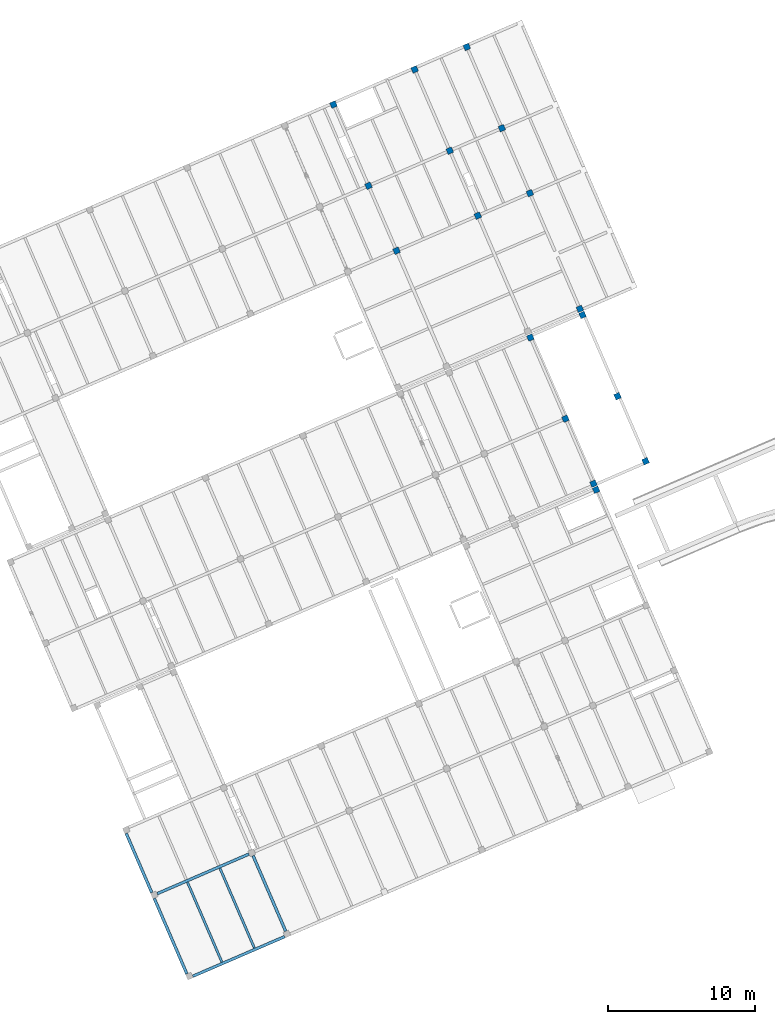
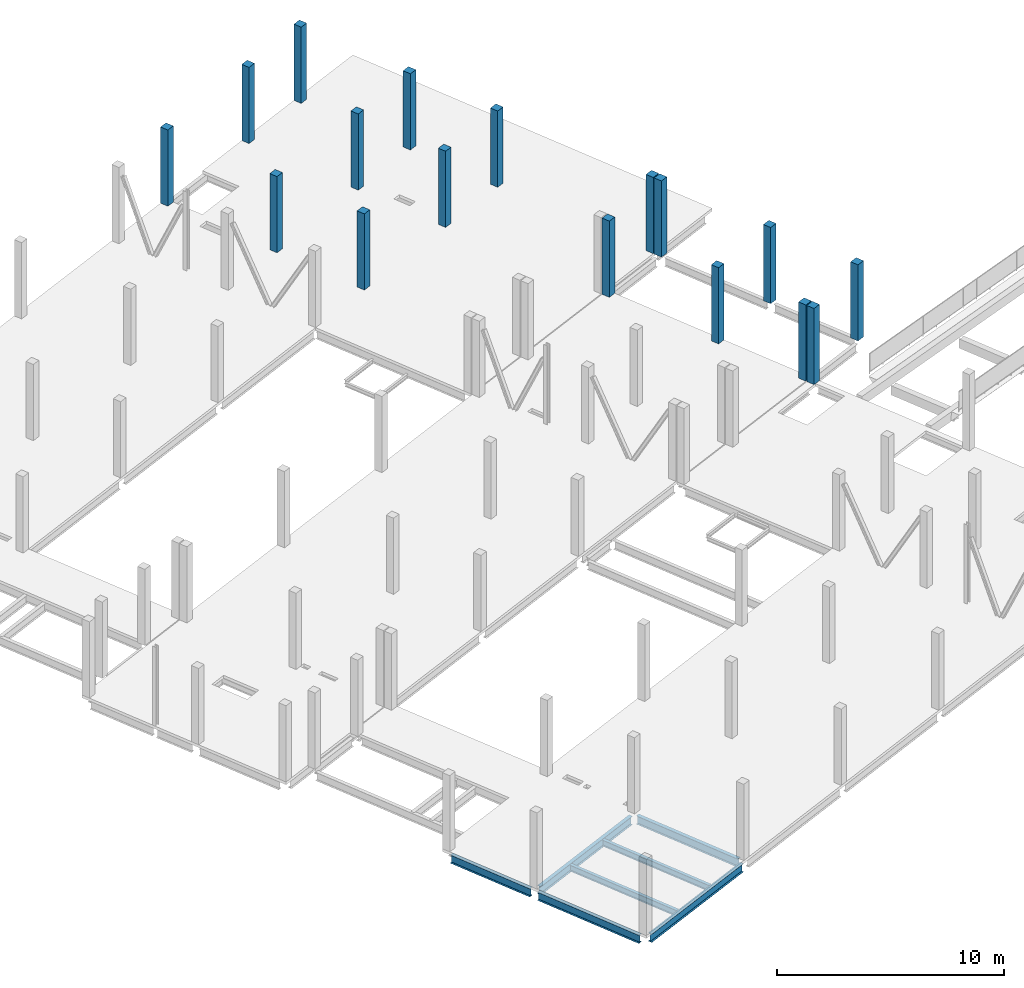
# One storey, part 6 of 24: 17 columns, 7 beams.
"""IFC4 building model written with IfcOpenShell, lengths in metres."""

from ifc_helpers import new_model, entity, si_unit, converted_unit, derived_unit, direction, frame, origin, place, context, subcontext, project, spatial, line, arc, indexed_curve, outline, extrude, source, transform, mapped, material, type_object, type_shapes, element, save


model = new_model("IFC4")

# Units and contexts
model_context = context("Model", 3, precision=1e-05, world=origin(), true_north=direction((6.12323399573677e-17, 1.0)))
body_context = subcontext(model_context, "Body", "Model", "MODEL_VIEW")
ifc_project = project(units=[si_unit("LENGTHUNIT", "METRE"), si_unit("AREAUNIT", "SQUARE_METRE"), si_unit("VOLUMEUNIT", "CUBIC_METRE"), converted_unit("PLANEANGLEUNIT", "DEGREE", entity("IfcPlaneAngleMeasure", 0.0174532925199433), si_unit("PLANEANGLEUNIT", "RADIAN"), dimensions=[0, 0, 0, 0, 0, 0, 0]), si_unit("MASSUNIT", "GRAM", prefix="KILO"), derived_unit("MOMENTOFINERTIAUNIT", [(si_unit("LENGTHUNIT", "METRE"), 4)]), derived_unit("LINEARFORCEUNIT", [(si_unit("MASSUNIT", "GRAM", prefix="KILO"), 1), (si_unit("TIMEUNIT", "SECOND"), -2)]), derived_unit("WARPINGCONSTANTUNIT", [(si_unit("LENGTHUNIT", "METRE"), 6)]), derived_unit("THERMALTRANSMITTANCEUNIT", [(si_unit("MASSUNIT", "GRAM", prefix="KILO"), 1), (si_unit("THERMODYNAMICTEMPERATUREUNIT", "KELVIN"), -1), (si_unit("TIMEUNIT", "SECOND"), -3)]), derived_unit("USERDEFINED", [(si_unit("MASSUNIT", "GRAM", prefix="KILO"), 1), (si_unit("TIMEUNIT", "SECOND"), -2), (si_unit("THERMODYNAMICTEMPERATUREUNIT", "KELVIN"), -1)]), derived_unit("THERMALRESISTANCEUNIT", [(si_unit("MASSUNIT", "GRAM", prefix="KILO"), -1), (si_unit("TIMEUNIT", "SECOND"), 3), (si_unit("THERMODYNAMICTEMPERATUREUNIT", "KELVIN"), 1)])], contexts=[model_context])

# Site, building, storey
site_placement = place(None, origin())
site = spatial("IfcSite", under=ifc_project, at=site_placement, Name="Default", CompositionType="ELEMENT")
building_placement = place(site_placement, frame((12.6613425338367, -82.5732315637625, 317.15), z_axis=(0.0, 0.0, 1.0), x_axis=(-0.396377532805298, 0.918087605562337, 0.0)))
building = spatial("IfcBuilding", under=site, at=building_placement, Name="CESFAM Coyhaique", CompositionType="ELEMENT")
storey_placement = place(building_placement, frame((0.0, 0.0, 4.20000000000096)))
storey = spatial("IfcBuildingStorey", under=building, at=storey_placement, Name="Nivel 2", CompositionType="ELEMENT", Elevation=4.20000000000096)

# Columns
ifc_material_1 = material(Name="HA")
column_type_1 = type_object("IfcColumnType", Name="M_Concrete-Square-Column:400 x 400mm", PredefinedType="COLUMN", material=ifc_material_1)
shared_shape_1 = source(origin(), body_context, "Body", "SweptSolid", [
    extrude(outline(indexed_curve([(-0.199999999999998, -0.200000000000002), (0.200000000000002, -0.200000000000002), (0.200000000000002, 0.199999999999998), (-0.199999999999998, 0.199999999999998), (-0.199999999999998, -0.200000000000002)], self_intersect=False)), frame((23.9688534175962, -21.197149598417, 4.20000000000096), z_axis=(0.0, 0.0, 1.0), x_axis=(-1.0, 0.0, 0.0)), (0.0, 0.0, 1.0), 4.10000000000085),
])
type_shapes(column_type_1, [shared_shape_1])
column_1_placement = place(storey_placement, frame((0.0, 0.0, -4.20000000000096)))
element("IfcColumn", 1, at=column_1_placement, inside=storey, type_object=column_type_1, Name="M_Concrete-Square-Column:400 x 400mm", ObjectType="M_Concrete-Square-Column:400 x 400mm", PredefinedType="COLUMN", context=body_context, shape_type="MappedRepresentation", body=[
    mapped(shared_shape_1, transform((0.0, 0.0, 0.0), scale=1.0)),
])
column_type_2 = type_object("IfcColumnType", Name="M_Concrete-Square-Column:400 x 400mm", PredefinedType="COLUMN", material=ifc_material_1)
shared_shape_2 = source(origin(), body_context, "Body", "SweptSolid", [
    extrude(outline(indexed_curve([(-0.200000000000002, -0.200000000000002), (0.199999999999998, -0.200000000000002), (0.199999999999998, 0.199999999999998), (-0.200000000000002, 0.199999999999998), (-0.200000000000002, -0.200000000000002)], self_intersect=False)), frame((28.7688534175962, -21.197149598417, 4.20000000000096), z_axis=(0.0, 0.0, 1.0), x_axis=(-1.0, 0.0, 0.0)), (0.0, 0.0, 1.0), 4.10000000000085),
])
type_shapes(column_type_2, [shared_shape_2])
column_2_placement = place(storey_placement, frame((0.0, 0.0, -4.20000000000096)))
element("IfcColumn", 2, at=column_2_placement, inside=storey, type_object=column_type_2, Name="M_Concrete-Square-Column:400 x 400mm", ObjectType="M_Concrete-Square-Column:400 x 400mm", PredefinedType="COLUMN", context=body_context, shape_type="MappedRepresentation", body=[
    mapped(shared_shape_2, transform((0.0, 0.0, 0.0), scale=1.0)),
])
column_type_3 = type_object("IfcColumnType", Name="M_Concrete-Square-Column:400 x 400mm", PredefinedType="COLUMN", material=ifc_material_1)
shared_shape_3 = source(origin(), body_context, "Body", "SweptSolid", [
    extrude(outline(indexed_curve([(-0.199999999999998, -0.200000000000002), (0.200000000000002, -0.200000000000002), (0.200000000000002, 0.199999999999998), (-0.199999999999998, 0.199999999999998), (-0.199999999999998, -0.200000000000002)], self_intersect=False)), frame((34.7688534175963, -21.197149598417, 4.20000000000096), z_axis=(0.0, 0.0, 1.0), x_axis=(-1.0, 0.0, 0.0)), (0.0, 0.0, 1.0), 4.10000000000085),
])
type_shapes(column_type_3, [shared_shape_3])
column_3_placement = place(storey_placement, frame((0.0, 0.0, -4.20000000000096)))
element("IfcColumn", 3, at=column_3_placement, inside=storey, type_object=column_type_3, Name="M_Concrete-Square-Column:400 x 400mm", ObjectType="M_Concrete-Square-Column:400 x 400mm", PredefinedType="COLUMN", context=body_context, shape_type="MappedRepresentation", body=[
    mapped(shared_shape_3, transform((0.0, 0.0, 0.0), scale=1.0)),
])
column_type_4 = type_object("IfcColumnType", Name="M_Concrete-Square-Column:400 x 400mm", PredefinedType="COLUMN", material=ifc_material_1)
shared_shape_4 = source(origin(), body_context, "Body", "SweptSolid", [
    extrude(outline(indexed_curve([(-0.199999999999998, -0.200000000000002), (0.199999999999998, -0.200000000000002), (0.199999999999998, 0.199999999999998), (-0.199999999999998, 0.199999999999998), (-0.199999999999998, -0.200000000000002)], self_intersect=False)), frame((43.7688534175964, -21.197149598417, 4.20000000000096), z_axis=(0.0, 0.0, 1.0), x_axis=(-1.0, 0.0, 0.0)), (0.0, 0.0, 1.0), 4.10000000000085),
])
type_shapes(column_type_4, [shared_shape_4])
column_4_placement = place(storey_placement, frame((0.0, 0.0, -4.20000000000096)))
element("IfcColumn", 4, at=column_4_placement, inside=storey, type_object=column_type_4, Name="M_Concrete-Square-Column:400 x 400mm", ObjectType="M_Concrete-Square-Column:400 x 400mm", PredefinedType="COLUMN", context=body_context, shape_type="MappedRepresentation", body=[
    mapped(shared_shape_4, transform((0.0, 0.0, 0.0), scale=1.0)),
])
column_type_5 = type_object("IfcColumnType", Name="M_Concrete-Square-Column:400 x 400mm", PredefinedType="COLUMN", material=ifc_material_1)
shared_shape_5 = source(origin(), body_context, "Body", "SweptSolid", [
    extrude(outline(indexed_curve([(-0.199999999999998, -0.200000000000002), (0.199999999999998, -0.200000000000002), (0.199999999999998, 0.199999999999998), (-0.199999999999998, 0.199999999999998), (-0.199999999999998, -0.200000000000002)], self_intersect=False)), frame((48.5688534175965, -21.1971495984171, 4.20000000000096), z_axis=(0.0, 0.0, 1.0), x_axis=(-1.0, 0.0, 0.0)), (0.0, 0.0, 1.0), 4.10000000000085),
])
type_shapes(column_type_5, [shared_shape_5])
column_5_placement = place(storey_placement, frame((0.0, 0.0, -4.20000000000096)))
element("IfcColumn", 5, at=column_5_placement, inside=storey, type_object=column_type_5, Name="M_Concrete-Square-Column:400 x 400mm", ObjectType="M_Concrete-Square-Column:400 x 400mm", PredefinedType="COLUMN", context=body_context, shape_type="MappedRepresentation", body=[
    mapped(shared_shape_5, transform((0.0, 0.0, 0.0), scale=1.0)),
])
column_type_6 = type_object("IfcColumnType", Name="M_Concrete-Square-Column:400 x 400mm", PredefinedType="COLUMN", material=ifc_material_1)
shared_shape_6 = source(origin(), body_context, "Body", "SweptSolid", [
    extrude(outline(indexed_curve([(-0.199999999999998, -0.200000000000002), (0.199999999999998, -0.200000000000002), (0.199999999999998, 0.199999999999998), (-0.199999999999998, 0.199999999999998), (-0.199999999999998, -0.200000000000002)], self_intersect=False)), frame((54.5688534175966, -21.1971495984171, 4.20000000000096), z_axis=(0.0, 0.0, 1.0), x_axis=(-1.0, 0.0, 0.0)), (0.0, 0.0, 1.0), 4.10000000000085),
])
type_shapes(column_type_6, [shared_shape_6])
column_6_placement = place(storey_placement, frame((0.0, 0.0, -4.20000000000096)))
element("IfcColumn", 6, at=column_6_placement, inside=storey, type_object=column_type_6, Name="M_Concrete-Square-Column:400 x 400mm", ObjectType="M_Concrete-Square-Column:400 x 400mm", PredefinedType="COLUMN", context=body_context, shape_type="MappedRepresentation", body=[
    mapped(shared_shape_6, transform((0.0, 0.0, 0.0), scale=1.0)),
])
column_type_7 = type_object("IfcColumnType", Name="M_Concrete-Square-Column:400 x 400mm", PredefinedType="COLUMN", material=ifc_material_1)
shared_shape_7 = source(origin(), body_context, "Body", "SweptSolid", [
    extrude(outline(indexed_curve([(-0.199999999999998, -0.2), (0.199999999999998, -0.2), (0.199999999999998, 0.2), (-0.199999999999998, 0.2), (-0.199999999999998, -0.2)], self_intersect=False)), frame((43.7688534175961, -15.1971495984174, 4.20000000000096), z_axis=(0.0, 0.0, 1.0), x_axis=(-1.0, 0.0, 0.0)), (0.0, 0.0, 1.0), 4.10000000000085),
])
type_shapes(column_type_7, [shared_shape_7])
column_7_placement = place(storey_placement, frame((0.0, 0.0, -4.20000000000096)))
element("IfcColumn", 7, at=column_7_placement, inside=storey, type_object=column_type_7, Name="M_Concrete-Square-Column:400 x 400mm", ObjectType="M_Concrete-Square-Column:400 x 400mm", PredefinedType="COLUMN", context=body_context, shape_type="MappedRepresentation", body=[
    mapped(shared_shape_7, transform((0.0, 0.0, 0.0), scale=1.0)),
])
column_type_8 = type_object("IfcColumnType", Name="M_Concrete-Square-Column:400 x 400mm", PredefinedType="COLUMN", material=ifc_material_1)
shared_shape_8 = source(origin(), body_context, "Body", "SweptSolid", [
    extrude(outline(indexed_curve([(-0.199999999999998, -0.2), (0.199999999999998, -0.2), (0.199999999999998, 0.2), (-0.199999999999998, 0.2), (-0.199999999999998, -0.2)], self_intersect=False)), frame((48.5688534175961, -15.1971495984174, 4.20000000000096), z_axis=(0.0, 0.0, 1.0), x_axis=(-1.0, 0.0, 0.0)), (0.0, 0.0, 1.0), 4.10000000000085),
])
type_shapes(column_type_8, [shared_shape_8])
column_8_placement = place(storey_placement, frame((0.0, 0.0, -4.20000000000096)))
element("IfcColumn", 8, at=column_8_placement, inside=storey, type_object=column_type_8, Name="M_Concrete-Square-Column:400 x 400mm", ObjectType="M_Concrete-Square-Column:400 x 400mm", PredefinedType="COLUMN", context=body_context, shape_type="MappedRepresentation", body=[
    mapped(shared_shape_8, transform((0.0, 0.0, 0.0), scale=1.0)),
])
column_type_9 = type_object("IfcColumnType", Name="M_Concrete-Square-Column:400 x 400mm", PredefinedType="COLUMN", material=ifc_material_1)
shared_shape_9 = source(origin(), body_context, "Body", "SweptSolid", [
    extrude(outline(indexed_curve([(-0.199999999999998, -0.2), (0.199999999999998, -0.2), (0.199999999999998, 0.2), (-0.199999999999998, 0.2), (-0.199999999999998, -0.2)], self_intersect=False)), frame((54.5688534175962, -15.1971495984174, 4.20000000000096), z_axis=(0.0, 0.0, 1.0), x_axis=(-1.0, 0.0, 0.0)), (0.0, 0.0, 1.0), 4.10000000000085),
])
type_shapes(column_type_9, [shared_shape_9])
column_9_placement = place(storey_placement, frame((0.0, 0.0, -4.20000000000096)))
element("IfcColumn", 9, at=column_9_placement, inside=storey, type_object=column_type_9, Name="M_Concrete-Square-Column:400 x 400mm", ObjectType="M_Concrete-Square-Column:400 x 400mm", PredefinedType="COLUMN", context=body_context, shape_type="MappedRepresentation", body=[
    mapped(shared_shape_9, transform((0.0, 0.0, 0.0), scale=1.0)),
])
column_type_10 = type_object("IfcColumnType", Name="M_Concrete-Square-Column:400 x 400mm", PredefinedType="COLUMN", material=ifc_material_1)
shared_shape_10 = source(origin(), body_context, "Body", "SweptSolid", [
    extrude(outline(indexed_curve([(-0.200000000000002, -0.200000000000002), (0.199999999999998, -0.200000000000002), (0.199999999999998, 0.199999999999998), (-0.200000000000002, 0.199999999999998), (-0.200000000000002, -0.200000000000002)], self_intersect=False)), frame((28.7688534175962, -25.0471495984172, 4.20000000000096), z_axis=(0.0, 0.0, 1.0), x_axis=(-1.0, 0.0, 0.0)), (0.0, 0.0, 1.0), 4.10000000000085),
])
type_shapes(column_type_10, [shared_shape_10])
column_10_placement = place(storey_placement, frame((0.0, 0.0, -4.20000000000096)))
element("IfcColumn", 10, at=column_10_placement, inside=storey, type_object=column_type_10, Name="M_Concrete-Square-Column:400 x 400mm", ObjectType="M_Concrete-Square-Column:400 x 400mm", PredefinedType="COLUMN", context=body_context, shape_type="MappedRepresentation", body=[
    mapped(shared_shape_10, transform((0.0, 0.0, 0.0), scale=1.0)),
])
column_type_11 = type_object("IfcColumnType", Name="M_Concrete-Square-Column:400 x 400mm", PredefinedType="COLUMN", material=ifc_material_1)
shared_shape_11 = source(origin(), body_context, "Body", "SweptSolid", [
    extrude(outline(indexed_curve([(-0.199999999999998, -0.200000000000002), (0.200000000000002, -0.200000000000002), (0.200000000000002, 0.199999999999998), (-0.199999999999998, 0.199999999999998), (-0.199999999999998, -0.200000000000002)], self_intersect=False)), frame((23.9688534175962, -25.0471495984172, 4.20000000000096), z_axis=(0.0, 0.0, 1.0), x_axis=(-1.0, 0.0, 0.0)), (0.0, 0.0, 1.0), 4.10000000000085),
])
type_shapes(column_type_11, [shared_shape_11])
column_11_placement = place(storey_placement, frame((0.0, 0.0, -4.20000000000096)))
element("IfcColumn", 11, at=column_11_placement, inside=storey, type_object=column_type_11, Name="M_Concrete-Square-Column:400 x 400mm", ObjectType="M_Concrete-Square-Column:400 x 400mm", PredefinedType="COLUMN", context=body_context, shape_type="MappedRepresentation", body=[
    mapped(shared_shape_11, transform((0.0, 0.0, 0.0), scale=1.0)),
])
column_type_12 = type_object("IfcColumnType", Name="M_Concrete-Square-Column:400 x 400mm", PredefinedType="COLUMN", material=ifc_material_1)
shared_shape_12 = source(origin(), body_context, "Body", "SweptSolid", [
    extrude(outline(indexed_curve([(-0.200000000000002, -0.199999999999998), (0.199999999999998, -0.199999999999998), (0.199999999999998, 0.200000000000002), (-0.200000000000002, 0.200000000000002), (-0.200000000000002, -0.199999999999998)], self_intersect=False)), frame((34.7688534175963, -25.0471495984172, 4.20000000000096), z_axis=(0.0, 0.0, 1.0), x_axis=(-1.0, 0.0, 0.0)), (0.0, 0.0, 1.0), 4.10000000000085),
])
type_shapes(column_type_12, [shared_shape_12])
column_12_placement = place(storey_placement, frame((0.0, 0.0, -4.20000000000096)))
element("IfcColumn", 12, at=column_12_placement, inside=storey, type_object=column_type_12, Name="M_Concrete-Square-Column:400 x 400mm", ObjectType="M_Concrete-Square-Column:400 x 400mm", PredefinedType="COLUMN", context=body_context, shape_type="MappedRepresentation", body=[
    mapped(shared_shape_12, transform((0.0, 0.0, 0.0), scale=1.0)),
])
column_type_13 = type_object("IfcColumnType", Name="M_Concrete-Square-Column:400 x 400mm", PredefinedType="COLUMN", material=ifc_material_1)
shared_shape_13 = source(origin(), body_context, "Body", "SweptSolid", [
    extrude(outline(indexed_curve([(-0.199999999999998, -0.200000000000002), (0.199999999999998, -0.200000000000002), (0.199999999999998, 0.199999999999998), (-0.199999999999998, 0.199999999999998), (-0.199999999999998, -0.200000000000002)], self_intersect=False)), frame((43.7688534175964, -25.0471495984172, 4.20000000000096), z_axis=(0.0, 0.0, 1.0), x_axis=(-1.0, 0.0, 0.0)), (0.0, 0.0, 1.0), 4.10000000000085),
])
type_shapes(column_type_13, [shared_shape_13])
column_13_placement = place(storey_placement, frame((0.0, 0.0, -4.20000000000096)))
element("IfcColumn", 13, at=column_13_placement, inside=storey, type_object=column_type_13, Name="M_Concrete-Square-Column:400 x 400mm", ObjectType="M_Concrete-Square-Column:400 x 400mm", PredefinedType="COLUMN", context=body_context, shape_type="MappedRepresentation", body=[
    mapped(shared_shape_13, transform((0.0, 0.0, 0.0), scale=1.0)),
])
column_type_14 = type_object("IfcColumnType", Name="M_Concrete-Square-Column:400 x 400mm", PredefinedType="COLUMN", material=ifc_material_1)
shared_shape_14 = source(origin(), body_context, "Body", "SweptSolid", [
    extrude(outline(indexed_curve([(-0.199999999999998, -0.200000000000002), (0.199999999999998, -0.200000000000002), (0.199999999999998, 0.199999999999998), (-0.199999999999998, 0.199999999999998), (-0.199999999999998, -0.200000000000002)], self_intersect=False)), frame((48.5688534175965, -25.0471495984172, 4.20000000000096), z_axis=(0.0, 0.0, 1.0), x_axis=(-1.0, 0.0, 0.0)), (0.0, 0.0, 1.0), 4.10000000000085),
])
type_shapes(column_type_14, [shared_shape_14])
column_14_placement = place(storey_placement, frame((0.0, 0.0, -4.20000000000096)))
element("IfcColumn", 14, at=column_14_placement, inside=storey, type_object=column_type_14, Name="M_Concrete-Square-Column:400 x 400mm", ObjectType="M_Concrete-Square-Column:400 x 400mm", PredefinedType="COLUMN", context=body_context, shape_type="MappedRepresentation", body=[
    mapped(shared_shape_14, transform((0.0, 0.0, 0.0), scale=1.0)),
])
column_type_15 = type_object("IfcColumnType", Name="M_Concrete-Square-Column:400 x 400mm", PredefinedType="COLUMN", material=ifc_material_1)
shared_shape_15 = source(origin(), body_context, "Body", "SweptSolid", [
    extrude(outline(indexed_curve([(-0.199999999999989, -0.200000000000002), (0.200000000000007, -0.200000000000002), (0.200000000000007, 0.199999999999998), (-0.199999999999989, 0.199999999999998), (-0.199999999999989, -0.200000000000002)], self_intersect=False)), frame((54.5688534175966, -25.0471495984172, 4.20000000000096), z_axis=(0.0, 0.0, 1.0), x_axis=(-1.0, 0.0, 0.0)), (0.0, 0.0, 1.0), 4.10000000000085),
])
type_shapes(column_type_15, [shared_shape_15])
column_15_placement = place(storey_placement, frame((0.0, 0.0, -4.20000000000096)))
element("IfcColumn", 15, at=column_15_placement, inside=storey, type_object=column_type_15, Name="M_Concrete-Square-Column:400 x 400mm", ObjectType="M_Concrete-Square-Column:400 x 400mm", PredefinedType="COLUMN", context=body_context, shape_type="MappedRepresentation", body=[
    mapped(shared_shape_15, transform((0.0, 0.0, 0.0), scale=1.0)),
])
column_type_16 = type_object("IfcColumnType", Name="M_Concrete-Square-Column:400 x 400mm", PredefinedType="COLUMN", material=ifc_material_1)
shared_shape_16 = source(origin(), body_context, "Body", "SweptSolid", [
    extrude(outline(indexed_curve([(-0.240000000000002, -0.181000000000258), (0.159999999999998, -0.181000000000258), (0.159999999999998, -0.0759999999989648), (0.159999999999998, 0.218999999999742), (-0.240000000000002, 0.218999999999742), (-0.240000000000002, -0.181000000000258)], self_intersect=False)), frame((23.4788534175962, -21.1781495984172, 4.20000000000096), z_axis=(0.0, 0.0, 1.0), x_axis=(-1.0, 0.0, 0.0)), (0.0, 0.0, 1.0), 4.10000000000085),
])
type_shapes(column_type_16, [shared_shape_16])
column_16_placement = place(storey_placement, frame((0.0, 0.0, -4.20000000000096)))
element("IfcColumn", 16, at=column_16_placement, inside=storey, type_object=column_type_16, Name="M_Concrete-Square-Column:400 x 400mm", ObjectType="M_Concrete-Square-Column:400 x 400mm", PredefinedType="COLUMN", context=body_context, shape_type="MappedRepresentation", body=[
    mapped(shared_shape_16, transform((0.0, 0.0, 0.0), scale=1.0)),
])
column_type_17 = type_object("IfcColumnType", Name="M_Concrete-Square-Column:400 x 400mm", PredefinedType="COLUMN", material=ifc_material_1)
shared_shape_17 = source(origin(), body_context, "Body", "SweptSolid", [
    extrude(outline(indexed_curve([(-0.199999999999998, -0.200000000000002), (0.200000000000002, -0.200000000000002), (0.200000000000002, 0.199999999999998), (-0.199999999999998, 0.199999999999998), (-0.199999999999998, -0.200000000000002)], self_intersect=False)), frame((35.2188534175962, -25.0471495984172, 4.20000000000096), z_axis=(0.0, 0.0, 1.0), x_axis=(-1.0, 0.0, 0.0)), (0.0, 0.0, 1.0), 4.10000000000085),
])
type_shapes(column_type_17, [shared_shape_17])
column_17_placement = place(storey_placement, frame((0.0, 0.0, -4.20000000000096)))
element("IfcColumn", 17, at=column_17_placement, inside=storey, type_object=column_type_17, Name="M_Concrete-Square-Column:400 x 400mm", ObjectType="M_Concrete-Square-Column:400 x 400mm", PredefinedType="COLUMN", context=body_context, shape_type="MappedRepresentation", body=[
    mapped(shared_shape_17, transform((0.0, 0.0, 0.0), scale=1.0)),
])

# Beams
ifc_material_2 = material(Name="Steel, 45-345", Category="Metal")
beam_type_1 = type_object("IfcBeamType", Name="M_W Shapes:W450X190mm", PredefinedType="BEAM", material=ifc_material_2)
shared_shape_18 = source(origin(), body_context, "Body", "SweptSolid", [
    extrude(outline(indexed_curve([(-0.225, -0.0950000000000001), (-0.215350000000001, -0.0950000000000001), (-0.21535, -0.0105699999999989), (-0.213109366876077, -0.00516063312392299), (-0.2077, -0.00291999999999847), (0.207699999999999, -0.00291999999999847), (0.213109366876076, -0.00516063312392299), (0.215349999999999, -0.0105699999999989), (0.215349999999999, -0.0950000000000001), (0.225, -0.0950000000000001), (0.225, 0.0950000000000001), (0.215349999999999, 0.0950000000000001), (0.215349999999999, 0.0105700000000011), (0.213109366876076, 0.00516063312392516), (0.207699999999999, 0.00292000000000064), (-0.2077, 0.00292000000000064), (-0.213109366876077, 0.00516063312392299), (-0.215350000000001, 0.0105700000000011), (-0.215350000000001, 0.0950000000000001), (-0.225, 0.0950000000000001)], segments=[line(1, 2, 3), arc(3, 4, 5), line(5, 6), arc(6, 7, 8), line(8, 9, 10, 11, 12, 13), arc(13, 14, 15), line(15, 16), arc(16, 17, 18), line(18, 19, 20, 1)], self_intersect=False)), frame((4.38155341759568, 17.3028504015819, 3.82500000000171), z_axis=(1.0, 0.0, 0.0), x_axis=(0.0, 0.0, -1.0)), (0.0, 0.0, 1.0), 5.5746),
])
type_shapes(beam_type_1, [shared_shape_18])
beam_1_placement = place(storey_placement, frame((0.0, 0.0, -4.20000000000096)))
element("IfcBeam", 18, at=beam_1_placement, inside=storey, type_object=beam_type_1, Name="M_W Shapes:W450X190mm", ObjectType="M_W Shapes:W450X190mm", PredefinedType="BEAM", context=body_context, shape_type="MappedRepresentation", body=[
    mapped(shared_shape_18, transform((0.0, 0.0, 0.0), scale=1.0)),
])
beam_type_2 = type_object("IfcBeamType", Name="M_W Shapes:W450X190mm", PredefinedType="BEAM", material=ifc_material_2)
shared_shape_19 = source(origin(), body_context, "Body", "SweptSolid", [
    extrude(outline(indexed_curve([(-0.225, -0.0950000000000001), (-0.215350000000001, -0.0950000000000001), (-0.21535, -0.0105699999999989), (-0.213109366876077, -0.00516063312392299), (-0.2077, -0.00291999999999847), (0.207699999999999, -0.00291999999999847), (0.213109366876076, -0.00516063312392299), (0.215349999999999, -0.0105699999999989), (0.215349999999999, -0.0950000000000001), (0.225, -0.0950000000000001), (0.225, 0.0950000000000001), (0.215349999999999, 0.0950000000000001), (0.215349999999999, 0.0105700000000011), (0.213109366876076, 0.00516063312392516), (0.207699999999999, 0.00292000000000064), (-0.2077, 0.00292000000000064), (-0.213109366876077, 0.00516063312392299), (-0.215350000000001, 0.0105700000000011), (-0.215350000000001, 0.0950000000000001), (-0.225, 0.0950000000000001)], segments=[line(1, 2, 3), arc(3, 4, 5), line(5, 6), arc(6, 7, 8), line(8, 9, 10, 11, 12, 13), arc(13, 14, 15), line(15, 16), arc(16, 17, 18), line(18, 19, 20, 1)], self_intersect=False)), frame((4.3815534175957, 10.0028504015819, 3.82500000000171), z_axis=(1.0, 0.0, 0.0), x_axis=(0.0, 0.0, -1.0)), (0.0, 0.0, 1.0), 5.5746),
])
type_shapes(beam_type_2, [shared_shape_19])
beam_2_placement = place(storey_placement, frame((0.0, 0.0, -4.20000000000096)))
element("IfcBeam", 19, at=beam_2_placement, inside=storey, type_object=beam_type_2, Name="M_W Shapes:W450X190mm", ObjectType="M_W Shapes:W450X190mm", PredefinedType="BEAM", context=body_context, shape_type="MappedRepresentation", body=[
    mapped(shared_shape_19, transform((0.0, 0.0, 0.0), scale=1.0)),
])
beam_type_3 = type_object("IfcBeamType", Name="M_W Shapes:W450X190mm", PredefinedType="BEAM", material=ifc_material_2)
shared_shape_20 = source(origin(), body_context, "Body", "SweptSolid", [
    extrude(outline(indexed_curve([(-0.225, -0.0950000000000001), (-0.215350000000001, -0.0949999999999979), (-0.21535, -0.0105699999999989), (-0.213109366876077, -0.00516063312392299), (-0.2077, -0.00291999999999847), (0.207699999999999, -0.00291999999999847), (0.213109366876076, -0.00516063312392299), (0.215349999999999, -0.0105699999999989), (0.215349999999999, -0.0950000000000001), (0.225, -0.0950000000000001), (0.225, 0.0950000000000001), (0.215349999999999, 0.0950000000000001), (0.215349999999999, 0.0105700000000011), (0.213109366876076, 0.00516063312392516), (0.207699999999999, 0.00292000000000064), (-0.2077, 0.00292000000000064), (-0.213109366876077, 0.00516063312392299), (-0.215350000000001, 0.0105700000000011), (-0.215350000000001, 0.0950000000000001), (-0.225, 0.0950000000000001)], segments=[line(1, 2, 3), arc(3, 4, 5), line(5, 6), arc(6, 7, 8), line(8, 9, 10, 11, 12, 13), arc(13, 14, 15), line(15, 16), arc(16, 17, 18), line(18, 19, 20, 1)], self_intersect=False)), frame((10.3815534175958, 17.3028504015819, 3.82500000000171), z_axis=(1.0, 0.0, 0.0), x_axis=(0.0, 0.0, -1.0)), (0.0, 0.0, 1.0), 4.3746),
])
type_shapes(beam_type_3, [shared_shape_20])
beam_3_placement = place(storey_placement, frame((0.0, 0.0, -4.20000000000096)))
element("IfcBeam", 20, at=beam_3_placement, inside=storey, type_object=beam_type_3, Name="M_W Shapes:W450X190mm", ObjectType="M_W Shapes:W450X190mm", PredefinedType="BEAM", context=body_context, shape_type="MappedRepresentation", body=[
    mapped(shared_shape_20, transform((0.0, 0.0, 0.0), scale=1.0)),
])
beam_type_4 = type_object("IfcBeamType", Name="M_W Shapes:W450X190mm", PredefinedType="BEAM", material=ifc_material_2)
shared_shape_21 = source(origin(), body_context, "Body", "SweptSolid", [
    extrude(outline(indexed_curve([(-0.0950000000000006, -0.225000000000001), (0.0950000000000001, -0.225000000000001), (0.0950000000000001, -0.21535), (0.01057, -0.21535), (0.00516063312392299, -0.213109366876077), (0.00291999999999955, -0.2077), (0.00291999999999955, 0.207699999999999), (0.00516063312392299, 0.213109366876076), (0.01057, 0.21535), (0.094999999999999, 0.21535), (0.0949999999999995, 0.224999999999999), (-0.0950000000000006, 0.224999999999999), (-0.0950000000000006, 0.21535), (-0.0105700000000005, 0.215349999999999), (-0.00516063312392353, 0.213109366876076), (-0.00292000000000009, 0.207699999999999), (-0.00292000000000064, -0.2077), (-0.00516063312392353, -0.213109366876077), (-0.0105700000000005, -0.21535), (-0.0950000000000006, -0.21535)], segments=[line(1, 2, 3, 4), arc(4, 5, 6), line(6, 7), arc(7, 8, 9), line(9, 10, 11, 12, 13, 14), arc(14, 15, 16), line(16, 17), arc(17, 18, 19), line(19, 20, 1)], self_intersect=False)), frame((4.06885341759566, 10.2155504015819, 3.82500000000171), z_axis=(0.0, 1.0, 0.0), x_axis=(-1.0, 0.0, 0.0)), (0.0, 0.0, 1.0), 6.7746),
])
type_shapes(beam_type_4, [shared_shape_21])
beam_4_placement = place(storey_placement, frame((0.0, 0.0, -4.20000000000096)))
element("IfcBeam", 21, at=beam_4_placement, inside=storey, type_object=beam_type_4, Name="M_W Shapes:W450X190mm", ObjectType="M_W Shapes:W450X190mm", PredefinedType="BEAM", context=body_context, shape_type="MappedRepresentation", body=[
    mapped(shared_shape_21, transform((0.0, 0.0, 0.0), scale=1.0)),
])
beam_type_5 = type_object("IfcBeamType", Name="M_W Shapes:W450X190mm", PredefinedType="BEAM", material=ifc_material_2)
shared_shape_22 = source(origin(), body_context, "Body", "SweptSolid", [
    extrude(outline(indexed_curve([(-0.0950000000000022, -0.225000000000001), (0.0949999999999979, -0.225000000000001), (0.0949999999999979, -0.21535), (0.0105699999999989, -0.21535), (0.00516063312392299, -0.213109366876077), (0.00291999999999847, -0.2077), (0.00291999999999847, 0.207699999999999), (0.00516063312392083, 0.213109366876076), (0.0105699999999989, 0.21535), (0.0949999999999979, 0.21535), (0.0949999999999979, 0.224999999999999), (-0.0950000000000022, 0.224999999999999), (-0.0950000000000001, 0.21535), (-0.0105700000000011, 0.215349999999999), (-0.00516063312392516, 0.213109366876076), (-0.00292000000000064, 0.207699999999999), (-0.00292000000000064, -0.2077), (-0.00516063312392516, -0.213109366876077), (-0.0105700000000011, -0.21535), (-0.0950000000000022, -0.21535)], segments=[line(1, 2, 3, 4), arc(4, 5, 6), line(6, 7), arc(7, 8, 9), line(9, 10, 11, 12, 13, 14), arc(14, 15, 16), line(16, 17), arc(17, 18, 19), line(19, 20, 1)], self_intersect=False)), frame((10.1688534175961, 10.2155504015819, 3.82500000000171), z_axis=(0.0, 1.0, 0.0), x_axis=(-1.0, 0.0, 0.0)), (0.0, 0.0, 1.0), 6.7746),
])
type_shapes(beam_type_5, [shared_shape_22])
beam_5_placement = place(storey_placement, frame((0.0, 0.0, -4.20000000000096)))
element("IfcBeam", 22, at=beam_5_placement, inside=storey, type_object=beam_type_5, Name="M_W Shapes:W450X190mm", ObjectType="M_W Shapes:W450X190mm", PredefinedType="BEAM", context=body_context, shape_type="MappedRepresentation", body=[
    mapped(shared_shape_22, transform((0.0, 0.0, 0.0), scale=1.0)),
])
beam_type_6 = type_object("IfcBeamType", Name="M_W Shapes:W330X160mm", PredefinedType="BEAM", material=ifc_material_2)
shared_shape_23 = source(origin(), body_context, "Body", "SweptSolid", [
    extrude(outline(indexed_curve([(-0.164999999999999, -0.079999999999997), (-0.15535, -0.079999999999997), (-0.15535, -0.0105699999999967), (-0.153109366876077, -0.00516063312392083), (-0.1477, -0.0029199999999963), (0.1477, -0.0029199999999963), (0.153109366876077, -0.00516063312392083), (0.15535, -0.0105699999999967), (0.15535, -0.079999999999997), (0.165, -0.079999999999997), (0.165, 0.0800000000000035), (0.15535, 0.0800000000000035), (0.15535, 0.0105700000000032), (0.153109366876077, 0.00516063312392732), (0.1477, 0.0029200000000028), (-0.1477, 0.0029200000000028), (-0.153109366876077, 0.00516063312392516), (-0.15535, 0.0105700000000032), (-0.15535, 0.0800000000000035), (-0.164999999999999, 0.0800000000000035)], segments=[line(1, 2, 3), arc(3, 4, 5), line(5, 6), arc(6, 7, 8), line(8, 9, 10, 11, 12, 13), arc(13, 14, 15), line(15, 16), arc(16, 17, 18), line(18, 19, 20, 1)], self_intersect=False)), frame((4.1765534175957, 12.4028504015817, 3.88500000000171), z_axis=(1.0, 0.0, 0.0), x_axis=(0.0, 0.0, -1.0)), (0.0, 0.0, 1.0), 5.8846),
])
type_shapes(beam_type_6, [shared_shape_23])
beam_6_placement = place(storey_placement, frame((0.0, 0.0, -4.20000000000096)))
element("IfcBeam", 23, at=beam_6_placement, inside=storey, type_object=beam_type_6, Name="M_W Shapes:W330X160mm", ObjectType="M_W Shapes:W330X160mm", PredefinedType="BEAM", context=body_context, shape_type="MappedRepresentation", body=[
    mapped(shared_shape_23, transform((0.0, 0.0, 0.0), scale=1.0)),
])
beam_type_7 = type_object("IfcBeamType", Name="M_W Shapes:W330X160mm", PredefinedType="BEAM", material=ifc_material_2)
shared_shape_24 = source(origin(), body_context, "Body", "SweptSolid", [
    extrude(outline(indexed_curve([(-0.164999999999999, -0.0799999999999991), (-0.15535, -0.0799999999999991), (-0.15535, -0.0105699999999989), (-0.153109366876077, -0.00516063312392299), (-0.1477, -0.00291999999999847), (0.1477, -0.00291999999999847), (0.153109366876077, -0.00516063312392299), (0.15535, -0.0105699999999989), (0.15535, -0.0799999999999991), (0.165, -0.0799999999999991), (0.165, 0.0800000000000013), (0.15535, 0.0800000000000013), (0.15535, 0.0105700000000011), (0.153109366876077, 0.00516063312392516), (0.1477, 0.00292000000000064), (-0.1477, 0.00292000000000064), (-0.153109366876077, 0.00516063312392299), (-0.15535, 0.0105700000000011), (-0.15535, 0.0800000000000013), (-0.164999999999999, 0.0800000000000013)], segments=[line(1, 2, 3), arc(3, 4, 5), line(5, 6), arc(6, 7, 8), line(8, 9, 10, 11, 12, 13), arc(13, 14, 15), line(15, 16), arc(16, 17, 18), line(18, 19, 20, 1)], self_intersect=False)), frame((4.1765534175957, 14.8028504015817, 3.88500000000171), z_axis=(1.0, 0.0, 0.0), x_axis=(0.0, 0.0, -1.0)), (0.0, 0.0, 1.0), 5.8846),
])
type_shapes(beam_type_7, [shared_shape_24])
beam_7_placement = place(storey_placement, frame((0.0, 0.0, -4.20000000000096)))
element("IfcBeam", 24, at=beam_7_placement, inside=storey, type_object=beam_type_7, Name="M_W Shapes:W330X160mm", ObjectType="M_W Shapes:W330X160mm", PredefinedType="BEAM", context=body_context, shape_type="MappedRepresentation", body=[
    mapped(shared_shape_24, transform((0.0, 0.0, 0.0), scale=1.0)),
])

save(model, "model.ifc")
